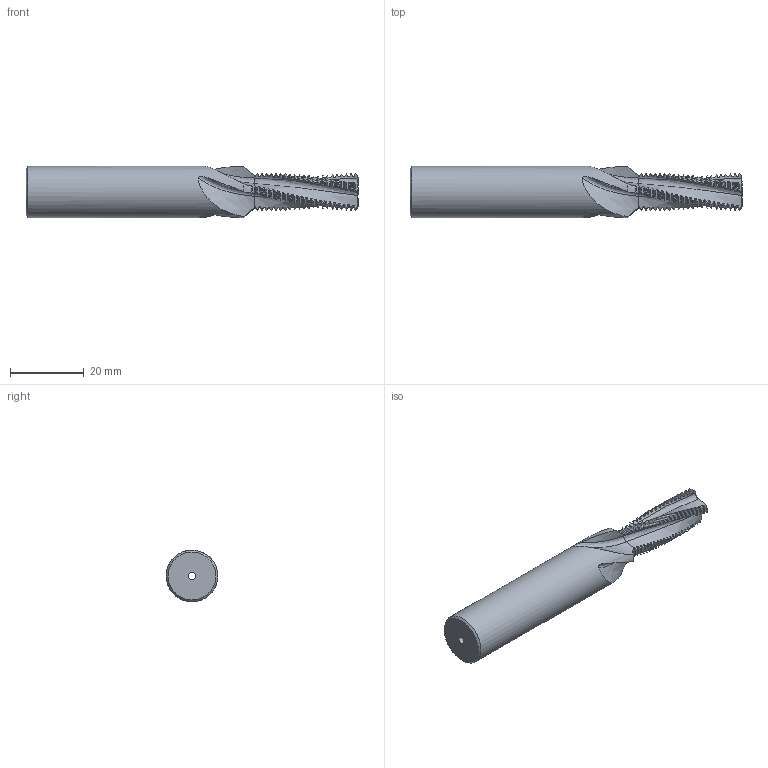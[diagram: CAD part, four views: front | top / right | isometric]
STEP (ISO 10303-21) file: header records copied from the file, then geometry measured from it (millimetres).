
FILE_DESCRIPTION(/* description */ (''),/* implementation_level */ '2;1');
FILE_NAME(/* name */ '171603-00036461-STEP',/* time_stamp */ '2024-02-21T08:35:12+01:00',/* author */ (''),/* organization */ (''),/* preprocessor_version */ 'ST-DEVELOPER v16.5',/* originating_system */ 'HiCAD 2017 2201.0 Build 268',/* authorisation */ '');
FILE_SCHEMA (('AUTOMOTIVE_DESIGN { 1 0 10303 214 1 1 1 1 }'));
Products named in the file (2): Root; ROTATIONSTEIL_0
Assembly tree (1 placements, depth 2):
  Root
    ROTATIONSTEIL_0
Bounding box: 90 x 14 x 14 mm (x, y, z)
Volume: 9392.4 mm3; surface area: 4587.1 mm2
Topology: 1 solids, 1 shells, 577 faces, 1723 edges, 1148 vertices
Faces by surface type: cylinder 186, cone 185, torus 180, bspline 24, plane 2
Full cylindrical faces by diameter (mm): 2 x1, 14 x1
Entity records: 59030 total; most frequent: CARTESIAN_POINT 29341, PRESENTATION_STYLE_ASSIGNMENT 3435, COLOUR_RGB 3435, DRAUGHTING_PRE_DEFINED_CURVE_FONT 3434, CURVE_STYLE 3434, OVER_RIDING_STYLED_ITEM 3434, ORIENTED_EDGE 3434, DIRECTION 2224
